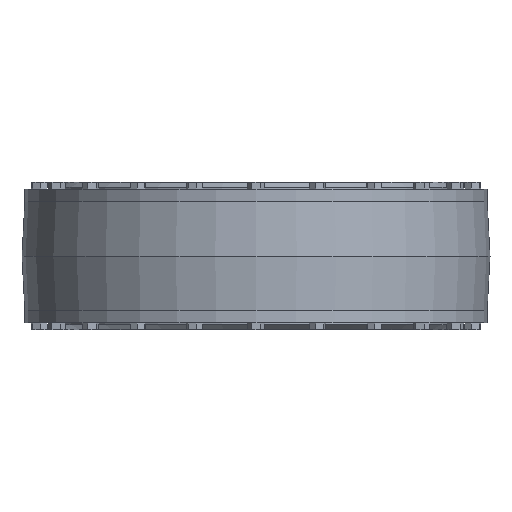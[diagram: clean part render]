
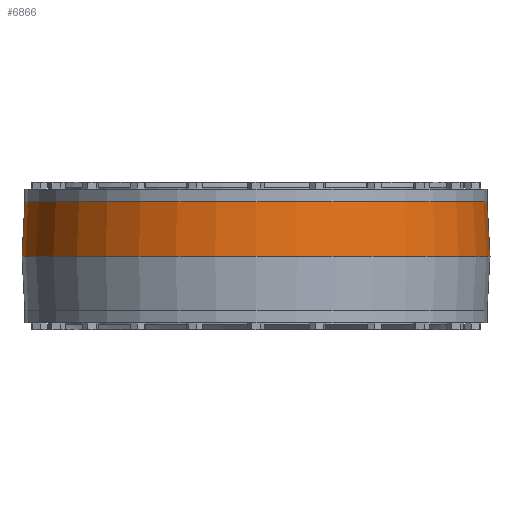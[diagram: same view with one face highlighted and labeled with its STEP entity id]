
A CAD part, front view. The second image highlights one B-rep face of the part: STEP entity #6866.
In plain terms, the highlighted conical face has half-angle 3 degrees and reference radius 300.294 mm.
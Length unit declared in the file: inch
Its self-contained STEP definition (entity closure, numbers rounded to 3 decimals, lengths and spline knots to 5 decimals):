
#66=CONICAL_SURFACE('',#7307,11.82258,0.052);
#200=CIRCLE('',#7305,11.75);
#201=CIRCLE('',#7306,11.75);
#202=CIRCLE('',#7308,11.89517);
#203=CIRCLE('',#7309,11.89517);
#546=FACE_OUTER_BOUND('',#949,.T.);
#949=EDGE_LOOP('',(#5837,#5838,#5839,#5840,#5841,#5842));
#1762=LINE('',#10848,#2575);
#2575=VECTOR('',#8979,11.82258);
#3178=VERTEX_POINT('',#10838);
#3179=VERTEX_POINT('',#10839);
#3180=VERTEX_POINT('',#10844);
#3181=VERTEX_POINT('',#10845);
#4065=EDGE_CURVE('',#3178,#3179,#200,.T.);
#4066=EDGE_CURVE('',#3179,#3178,#201,.T.);
#4068=EDGE_CURVE('',#3180,#3181,#202,.T.);
#4069=EDGE_CURVE('',#3181,#3180,#203,.T.);
#4070=EDGE_CURVE('',#3181,#3179,#1762,.T.);
#5837=ORIENTED_EDGE('',*,*,#4068,.F.);
#5838=ORIENTED_EDGE('',*,*,#4069,.F.);
#5839=ORIENTED_EDGE('',*,*,#4070,.T.);
#5840=ORIENTED_EDGE('',*,*,#4066,.T.);
#5841=ORIENTED_EDGE('',*,*,#4065,.T.);
#5842=ORIENTED_EDGE('',*,*,#4070,.F.);
#6866=ADVANCED_FACE('',(#546),#66,.T.);
#7305=AXIS2_PLACEMENT_3D('',#10840,#8968,#8969);
#7306=AXIS2_PLACEMENT_3D('',#10841,#8970,#8971);
#7307=AXIS2_PLACEMENT_3D('',#10843,#8973,#8974);
#7308=AXIS2_PLACEMENT_3D('',#10846,#8975,#8976);
#7309=AXIS2_PLACEMENT_3D('',#10847,#8977,#8978);
#8968=DIRECTION('center_axis',(0.,0.,-1.));
#8969=DIRECTION('ref_axis',(1.,0.,0.));
#8970=DIRECTION('center_axis',(0.,0.,-1.));
#8971=DIRECTION('ref_axis',(1.,0.,0.));
#8973=DIRECTION('center_axis',(0.,0.,-1.));
#8974=DIRECTION('ref_axis',(0.,1.,0.));
#8975=DIRECTION('center_axis',(0.,0.,-1.));
#8976=DIRECTION('ref_axis',(1.,0.,0.));
#8977=DIRECTION('center_axis',(0.,0.,-1.));
#8978=DIRECTION('ref_axis',(1.,0.,0.));
#8979=DIRECTION('',(0.,0.052,0.999));
#10838=CARTESIAN_POINT('',(0.,11.75,2.77));
#10839=CARTESIAN_POINT('',(0.,-11.75,2.77));
#10840=CARTESIAN_POINT('Origin',(0.,0.,2.77));
#10841=CARTESIAN_POINT('Origin',(0.,0.,2.77));
#10843=CARTESIAN_POINT('Origin',(0.,0.,1.385));
#10844=CARTESIAN_POINT('',(0.,11.89517,0.));
#10845=CARTESIAN_POINT('',(0.,-11.89517,0.));
#10846=CARTESIAN_POINT('Origin',(0.,0.,0.));
#10847=CARTESIAN_POINT('Origin',(0.,0.,0.));
#10848=CARTESIAN_POINT('',(0.,-11.82258,1.385));
